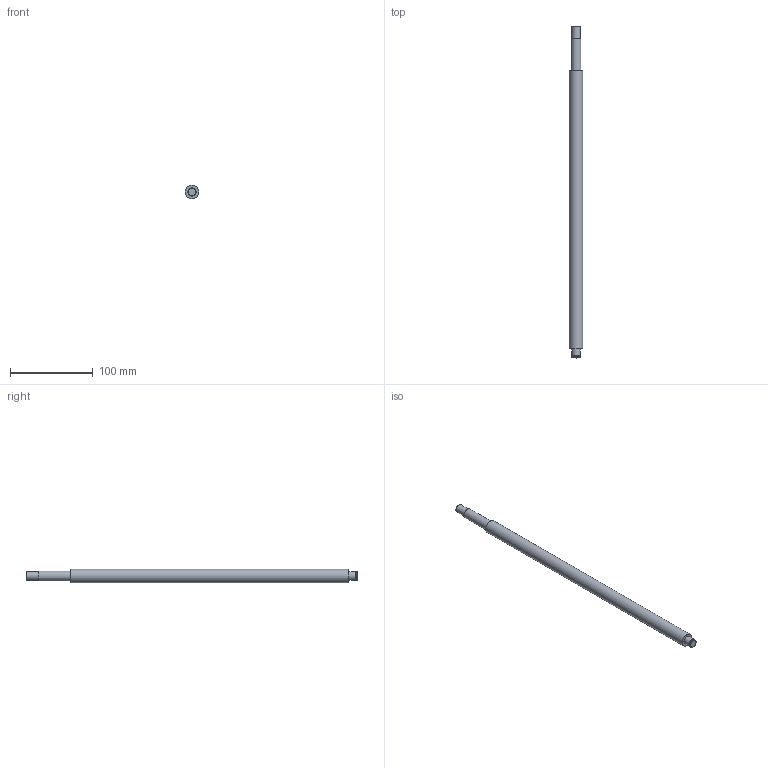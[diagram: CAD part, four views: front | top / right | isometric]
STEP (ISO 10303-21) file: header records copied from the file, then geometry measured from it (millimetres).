
FILE_DESCRIPTION(/* description */ (''),/* implementation_level */ '2;1');
FILE_NAME(/* name */ 'C:\Users\David\Desktop\stepFiles\Profilfuehrung\KUS1605x400.stp',/* time_stamp */ '2018-06-24T15:08:44+02:00',/* author */ ('David'),/* organization */ (''),/* preprocessor_version */ 'ST-DEVELOPER v17',/* originating_system */ 'Autodesk Inventor 2019',/* authorisation */ '');
FILE_SCHEMA (('AUTOMOTIVE_DESIGN { 1 0 10303 214 3 1 1 }'));
Length unit declared in the file: millimetre
Products named in the file (1): SFU1605xvariabel
Bounding box: 16 x 400 x 16 mm (x, y, z)
Volume: 73793.9 mm3; surface area: 19520 mm2
Topology: 1 solids, 1 shells, 15 faces, 34 edges, 26 vertices
Faces by surface type: plane 7, cylinder 6, cone 2
Full cylindrical faces by diameter (mm): 9.6 x1, 10 x3, 12 x1, 16 x1
Entity records: 493 total; most frequent: DIRECTION 92, CARTESIAN_POINT 76, ORIENTED_EDGE 68, AXIS2_PLACEMENT_3D 42, EDGE_CURVE 34, CIRCLE 26, VERTEX_POINT 26, EDGE_LOOP 20
